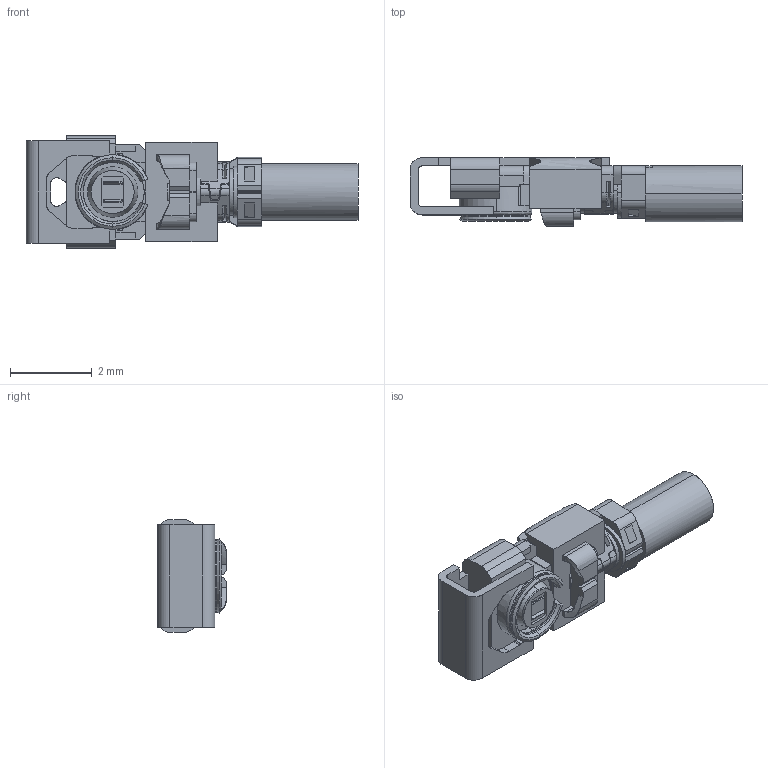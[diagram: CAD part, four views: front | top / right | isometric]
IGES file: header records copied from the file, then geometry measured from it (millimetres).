
Start section: SolidWorks IGES file using analytic representation for surfaces
Global section: file name: C:\3dwork\watanabe\20231005_WEB 3D\採弌\WEB梡3D儌僨儖\MHF 4L LK\20632-001R-37+3615-000xC (UNLOCK) IGES R1R4 ALL.IGS; native system: SolidWorks 2023; preprocessor: SolidWorks 2023; author: E1480; date: 231107.140210; units: millimetre
Bounding box: 8.12 x 1.68 x 2.75 mm (x, y, z)
Surface area: 75.8 mm2 (no closed solid volume)
Topology: 0 solids, 0 shells, 362 faces, 2520 edges, 2520 vertices
Faces by surface type: bspline 241, revolution 121
